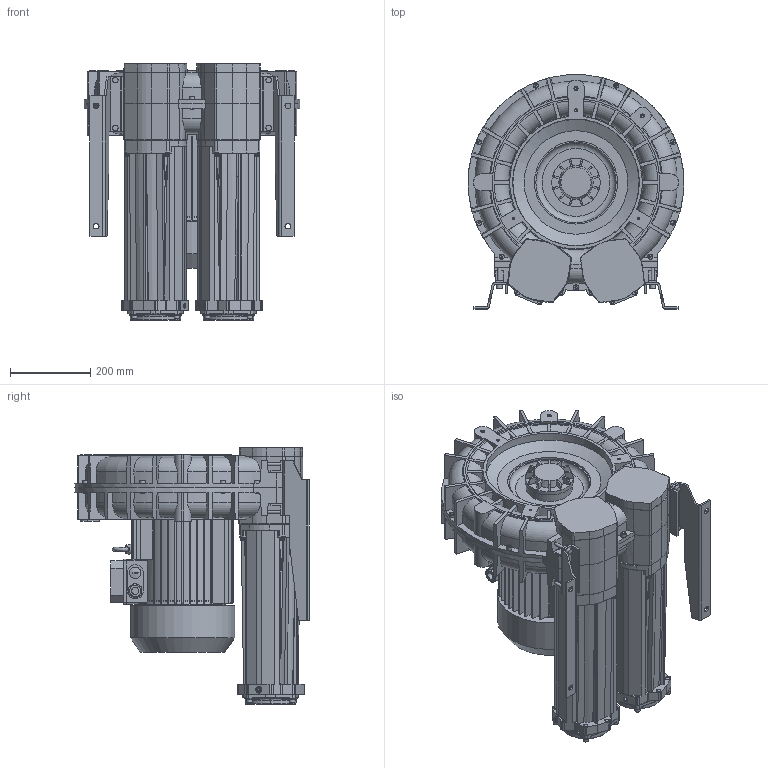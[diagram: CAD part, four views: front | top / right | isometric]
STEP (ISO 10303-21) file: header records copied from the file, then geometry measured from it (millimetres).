
FILE_DESCRIPTION (( 'STEP AP203' ), '1' );
FILE_NAME ('STP-L_e_10_MD_MOR_IE3WR_132_9.2kW-3_24-00.step', '2024-12-02T11:25:09', ( '' ), ( '' ), 'SwSTEP 2.0', 'SolidWorks 2023', '' );
FILE_SCHEMA (( 'CONFIG_CONTROL_DESIGN' ));
Length unit declared in the file: millimetre
Products named in the file (1): STP-L_e_10_MD_MOR_IE3WR_132_9.2kW-3_24-00
Bounding box: 537.57 x 583.15 x 639 mm (x, y, z)
Volume: 59488725.6 mm3; surface area: 3363048.5 mm2
Topology: 82 solids, 82 shells, 5651 faces, 14465 edges, 8994 vertices
Faces by surface type: plane 1932, cylinder 1850, bspline 826, torus 504, cone 482, sphere 57
Full cylindrical faces by diameter (mm): 6.8 x24, 7.5 x4, 8 x33, 8.4 x29, 8.5 x10, 8.566 x2, 8.8 x4, 9.98 x2, 10 x3, 11 x8, 12 x2, 12.02 x2, 13 x46, 14 x14, 16 x4, 16.5 x2, 18 x1, 19 x1, 20 x2, 21.4 x1, 24 x4, 25 x3, 28 x1, 110.4 x2, 115 x2, 120 x1, 128 x2, 207 x3, 213 x1, 259 x1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
Entity records: 270025 total; most frequent: CARTESIAN_POINT 143991, ORIENTED_EDGE 27544, DIRECTION 24192, EDGE_CURVE 13772, AXIS2_PLACEMENT_3D 9293, VERTEX_POINT 8793, EDGE_LOOP 6303, FACE_OUTER_BOUND 5941
